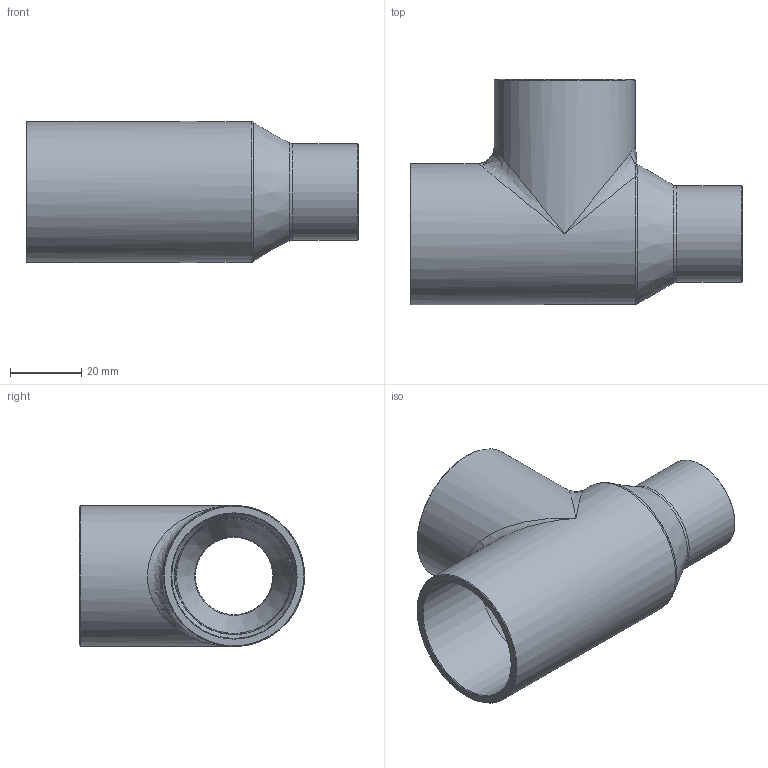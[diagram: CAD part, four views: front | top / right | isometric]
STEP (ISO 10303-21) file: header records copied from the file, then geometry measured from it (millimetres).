
FILE_DESCRIPTION((''),'2;1');
FILE_NAME('G:\SANHA-Ternat\Technik\Management\Bouwmaten + markeringen\z-maattekeningen 3D\29000s\2913013813878_3d.stp','2017-08-03T11:24:12',('vdvijverd'),(''),'Autodesk Inventor 2009','Autodesk Inventor 2009','');
FILE_SCHEMA(('AUTOMOTIVE_DESIGN { 1 0 10303 214 1 1 1 1 }'));
Length unit declared in the file: millimetre
Products named in the file (1): 2913013813878_3d
Bounding box: 93.4 x 63.35 x 39.7 mm (x, y, z)
Volume: 32898.3 mm3; surface area: 25357.8 mm2
Topology: 1 solids, 1 shells, 37 faces, 92 edges, 48 vertices
Faces by surface type: bspline 11, cone 10, cylinder 9, plane 4, torus 3
Full cylindrical faces by diameter (mm): 22.375 x1, 27.075 x1, 35.105 x2, 39.7 x2
Entity records: 2178 total; most frequent: CARTESIAN_POINT 1461, DIRECTION 148, ORIENTED_EDGE 116, AXIS2_PLACEMENT_3D 74, EDGE_LOOP 60, EDGE_CURVE 58, VERTEX_POINT 42, FACE_OUTER_BOUND 37
